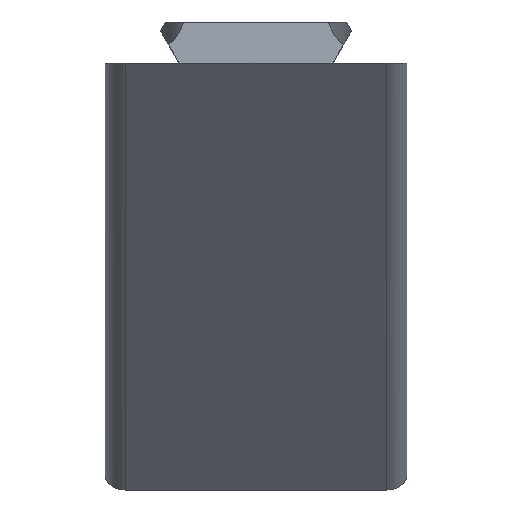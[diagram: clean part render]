
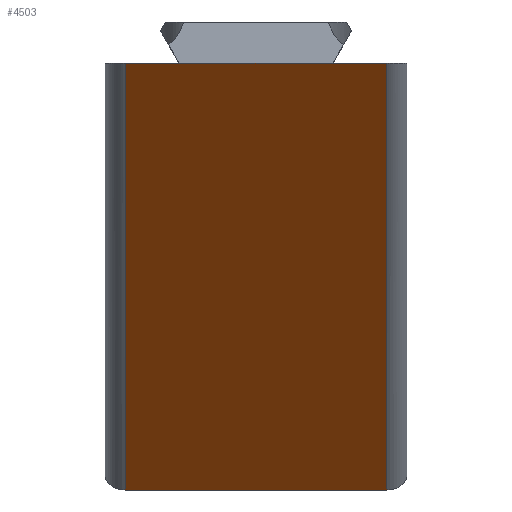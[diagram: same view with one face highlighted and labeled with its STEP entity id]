
A CAD part, left-side view. The second image highlights one B-rep face of the part: STEP entity #4503.
In plain terms, the highlighted planar face has unit normal (-0.707, 0, -0.707).
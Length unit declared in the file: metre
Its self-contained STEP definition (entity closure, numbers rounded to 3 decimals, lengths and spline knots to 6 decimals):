
#586=ORIENTED_EDGE('',*,*,#1716,.T.);
#587=ORIENTED_EDGE('',*,*,#1909,.T.);
#588=ORIENTED_EDGE('',*,*,#1670,.F.);
#589=ORIENTED_EDGE('',*,*,#1910,.T.);
#590=ORIENTED_EDGE('',*,*,#1732,.T.);
#591=ORIENTED_EDGE('',*,*,#1904,.T.);
#1670=EDGE_CURVE('',#2347,#2348,#2798,.T.);
#1716=EDGE_CURVE('',#2394,#2393,#2821,.T.);
#1732=EDGE_CURVE('',#2410,#2409,#2831,.T.);
#1904=EDGE_CURVE('',#2409,#2394,#2937,.T.);
#1909=EDGE_CURVE('',#2393,#2348,#2938,.T.);
#1910=EDGE_CURVE('',#2347,#2410,#2939,.F.);
#2347=VERTEX_POINT('',#6222);
#2348=VERTEX_POINT('',#6224);
#2393=VERTEX_POINT('',#6318);
#2394=VERTEX_POINT('',#6320);
#2409=VERTEX_POINT('',#6350);
#2410=VERTEX_POINT('',#6352);
#2798=LINE('',#6223,#3275);
#2821=LINE('',#6319,#3298);
#2831=LINE('',#6351,#3308);
#2937=LINE('',#6767,#3414);
#2938=LINE('',#6778,#3415);
#2939=LINE('',#6779,#3416);
#3275=VECTOR('',#5090,1.);
#3298=VECTOR('',#5167,1.);
#3308=VECTOR('',#5189,1.);
#3414=VECTOR('',#5377,1.);
#3415=VECTOR('',#5394,1.);
#3416=VECTOR('',#5395,1.);
#3791=EDGE_LOOP('',(#586,#587,#588,#589,#590,#591));
#4080=FACE_BOUND('',#3791,.T.);
#4342=PLANE('',#4833);
#4503=ADVANCED_FACE('',(#4080),#4342,.F.);
#4833=AXIS2_PLACEMENT_3D('',#6777,#5392,#5393);
#5090=DIRECTION('',(0.,1.,0.));
#5167=DIRECTION('',(0.,1.,0.));
#5189=DIRECTION('',(0.,1.,0.));
#5377=DIRECTION('',(0.,1.,0.));
#5392=DIRECTION('',(0.707,0.,0.707));
#5393=DIRECTION('',(0.707,0.,-0.707));
#5394=DIRECTION('',(0.707,0.,-0.707));
#5395=DIRECTION('',(0.707,0.,-0.707));
#6222=CARTESIAN_POINT('',(0.042426,-0.013,-0.042426));
#6223=CARTESIAN_POINT('',(0.042426,-0.015,-0.042426));
#6224=CARTESIAN_POINT('',(0.042426,0.013,-0.042426));
#6318=CARTESIAN_POINT('',(0.,0.013,0.));
#6319=CARTESIAN_POINT('',(0.,-0.015,0.));
#6320=CARTESIAN_POINT('',(0.,0.007695,0.));
#6350=CARTESIAN_POINT('',(0.,-0.007695,0.));
#6351=CARTESIAN_POINT('',(0.,-0.015,0.));
#6352=CARTESIAN_POINT('',(0.,-0.013,0.));
#6767=CARTESIAN_POINT('',(0.,0.,0.));
#6777=CARTESIAN_POINT('',(0.021213,-0.015,-0.021213));
#6778=CARTESIAN_POINT('',(0.021213,0.013,-0.021213));
#6779=CARTESIAN_POINT('',(0.,-0.013,0.));
